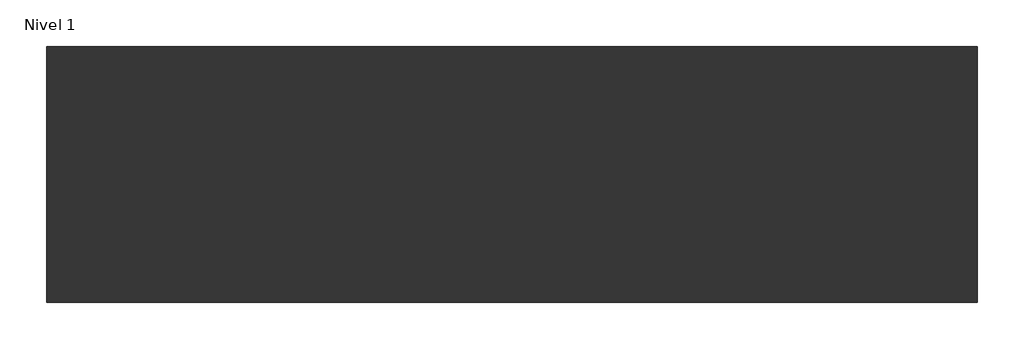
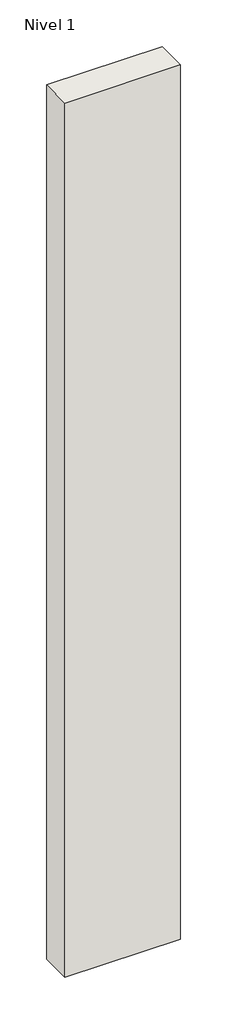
# One storey: 1 wall.
"""IFC4 building model written with IfcOpenShell, lengths in millimetres."""

from ifc_helpers import new_model, si_unit, origin, origin_with_axes, place, context, project, spatial, polyline, outline, extrude, element, save

model = new_model("IFC4")

# Units and contexts
model_context = context("Model", 3, world=origin())
ifc_project = project(units=[si_unit("LENGTHUNIT", "METRE", prefix="MILLI")], contexts=[model_context])

# Site, building, storey
site = spatial("IfcSite", under=ifc_project)
building = spatial("IfcBuilding", under=site)
storey = spatial("IfcBuildingStorey", under=building, Name="Nivel 1", Elevation=0.0)

# Wall
placement = place(None, origin())
element("IfcWall", 1, ObjectType="LC 1/2 pie + plancha poliuretano + cámara aire no ventilada + LH 4cm + enlucido", at=placement, inside=storey, context=model_context, shape_type="SweptSolid", body=[
    extrude(outline(polyline([(-3167.1347582, 3519.4505819), (-4167.1347582, 3519.4505819), (-4167.1347582, 3794.4505819), (-3167.1347582, 3794.4505819), (-3167.1347582, 3519.4505819)])), origin_with_axes(), (0.0, 0.0, 1.0), 8000.0),
])

save(model, "model.ifc")
